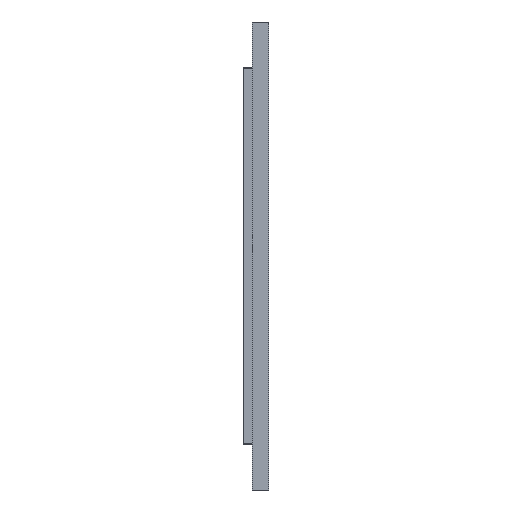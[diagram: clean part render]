
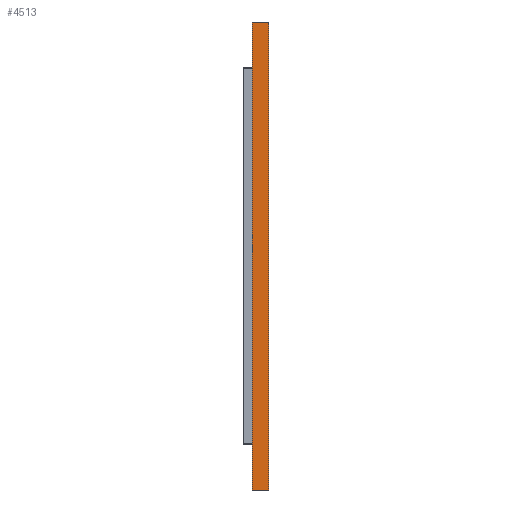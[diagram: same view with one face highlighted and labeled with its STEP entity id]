
A CAD part, left-side view. The second image highlights one B-rep face of the part: STEP entity #4513.
In plain terms, the highlighted planar face has unit normal (-1, 0, 0).
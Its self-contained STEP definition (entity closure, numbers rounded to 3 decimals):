
#90 = LINE ( 'NONE', #3872, #3884 ) ;
#196 = VERTEX_POINT ( 'NONE', #3976 ) ;
#227 = EDGE_CURVE ( 'NONE', #473, #196, #4265, .T. ) ;
#258 = ORIENTED_EDGE ( 'NONE', *, *, #227, .F. ) ;
#446 = AXIS2_PLACEMENT_3D ( 'NONE', #1858, #3728, #2153 ) ;
#466 = LINE ( 'NONE', #4539, #814 ) ;
#473 = VERTEX_POINT ( 'NONE', #3669 ) ;
#658 = EDGE_CURVE ( 'NONE', #1747, #473, #90, .T. ) ;
#814 = VECTOR ( 'NONE', #1889, 1000. ) ;
#870 = DIRECTION ( 'NONE',  ( 0., -1., 0. ) ) ;
#880 = PLANE ( 'NONE',  #446 ) ;
#887 = EDGE_CURVE ( 'NONE', #3005, #196, #466, .T. ) ;
#926 = VECTOR ( 'NONE', #870, 1000. ) ;
#1032 = ORIENTED_EDGE ( 'NONE', *, *, #4251, .T. ) ;
#1539 = EDGE_LOOP ( 'NONE', ( #4382, #258, #3653, #1032 ) ) ;
#1747 = VERTEX_POINT ( 'NONE', #4579 ) ;
#1858 = CARTESIAN_POINT ( 'NONE',  ( 159.833, 261.697, 299.139 ) ) ;
#1889 = DIRECTION ( 'NONE',  ( 0., 0., 1. ) ) ;
#1968 = DIRECTION ( 'NONE',  ( 0., 0., 1. ) ) ;
#2153 = DIRECTION ( 'NONE',  ( 0., 0., -1. ) ) ;
#2431 = DIRECTION ( 'NONE',  ( 0., -1., 0. ) ) ;
#3005 = VERTEX_POINT ( 'NONE', #3685 ) ;
#3165 = FACE_OUTER_BOUND ( 'NONE', #1539, .T. ) ;
#3593 = CARTESIAN_POINT ( 'NONE',  ( 159.833, 261.697, 49.139 ) ) ;
#3653 = ORIENTED_EDGE ( 'NONE', *, *, #658, .F. ) ;
#3669 = CARTESIAN_POINT ( 'NONE',  ( 159.833, 261.697, 299.139 ) ) ;
#3685 = CARTESIAN_POINT ( 'NONE',  ( 159.833, 252.697, 49.139 ) ) ;
#3728 = DIRECTION ( 'NONE',  ( 1., 0., 0. ) ) ;
#3872 = CARTESIAN_POINT ( 'NONE',  ( 159.833, 261.697, 299.139 ) ) ;
#3884 = VECTOR ( 'NONE', #1968, 1000. ) ;
#3976 = CARTESIAN_POINT ( 'NONE',  ( 159.833, 252.697, 299.139 ) ) ;
#4005 = VECTOR ( 'NONE', #2431, 1000. ) ;
#4251 = EDGE_CURVE ( 'NONE', #1747, #3005, #4371, .T. ) ;
#4265 = LINE ( 'NONE', #4684, #926 ) ;
#4371 = LINE ( 'NONE', #3593, #4005 ) ;
#4382 = ORIENTED_EDGE ( 'NONE', *, *, #887, .T. ) ;
#4513 = ADVANCED_FACE ( 'NONE', ( #3165 ), #880, .F. ) ;
#4539 = CARTESIAN_POINT ( 'NONE',  ( 159.833, 252.697, 299.139 ) ) ;
#4579 = CARTESIAN_POINT ( 'NONE',  ( 159.833, 261.697, 49.139 ) ) ;
#4684 = CARTESIAN_POINT ( 'NONE',  ( 159.833, 261.697, 299.139 ) ) ;
